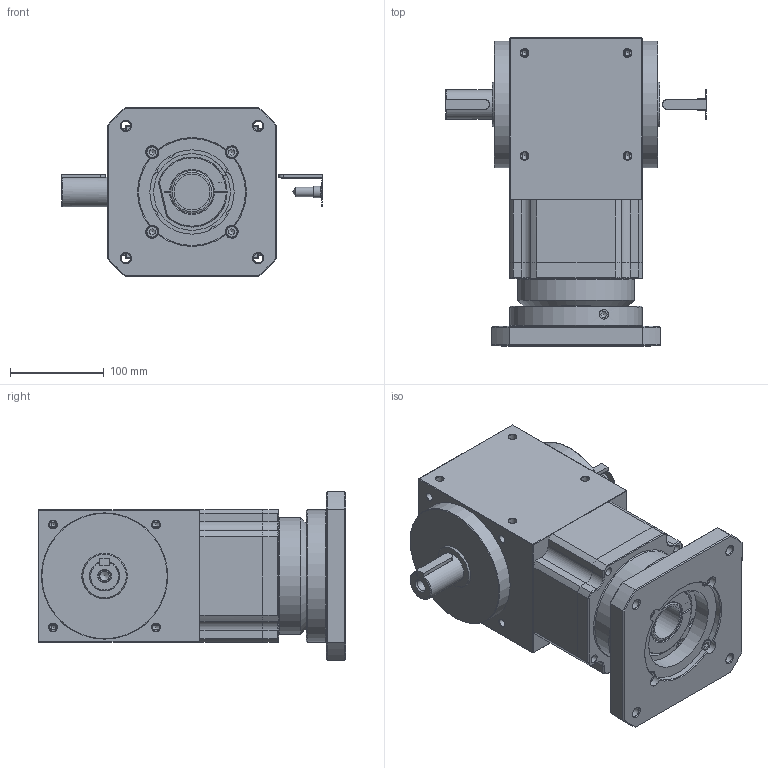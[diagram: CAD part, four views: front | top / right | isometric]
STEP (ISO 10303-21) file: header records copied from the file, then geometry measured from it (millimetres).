
FILE_DESCRIPTION((''),'2;1');
FILE_NAME('D:\유성\SBT 베벨기어박스\최종도면모음\3D\SBT142\SBT142PTS003~010K.stp','2014-05-20T18:50:41',('nagyu'),(''),'Autodesk Inventor 2013','Autodesk Inventor 2013','');
FILE_SCHEMA(('AUTOMOTIVE_DESIGN { 1 0 10303 214 1 1 1 1 }'));
Length unit declared in the file: millimetre
Products named in the file (1): SBT142PTS003~010K_Shrinkwrap_1
Bounding box: 279 x 329 x 180 mm (x, y, z)
Volume: 6554155.6 mm3; surface area: 347080.3 mm2
Topology: 1 solids, 10 shells, 601 faces, 1438 edges, 847 vertices
Faces by surface type: cylinder 244, plane 189, cone 130, torus 28, bspline 10
Full cylindrical faces by diameter (mm): 6.647 x4, 8 x5, 8.376 x20, 8.7 x10, 9 x4, 10 x3, 10.106 x7, 11 x1, 12.5 x2, 13 x5, 14 x10, 32 x3, 38 x1, 44.5 x1, 54.7 x1, 82 x1, 89 x2, 90 x1, 100 x1, 125 x1, 135 x2, 142 x1
Entity records: 17755 total; most frequent: CARTESIAN_POINT 5176, DIRECTION 2711, ORIENTED_EDGE 2304, AXIS2_PLACEMENT_3D 1172, EDGE_CURVE 1152, EDGE_LOOP 829, VERTEX_POINT 737, FACE_OUTER_BOUND 600
